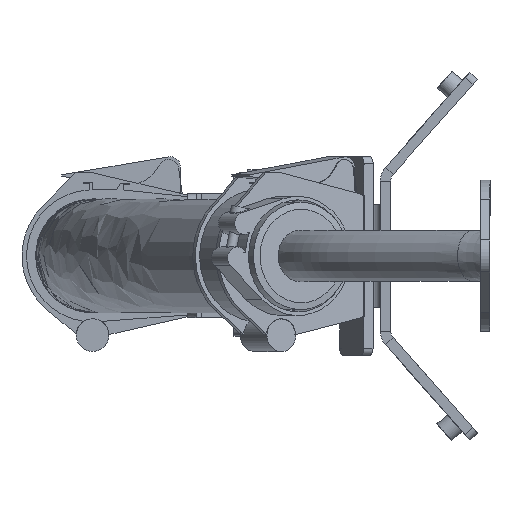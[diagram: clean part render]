
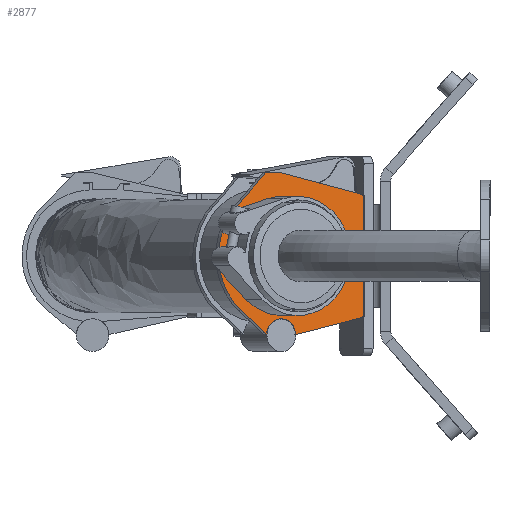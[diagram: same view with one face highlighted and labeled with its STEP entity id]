
A CAD part, left-side view. The second image highlights one B-rep face of the part: STEP entity #2877.
In plain terms, the highlighted planar face has unit normal (-0.883, -0.469, 0).
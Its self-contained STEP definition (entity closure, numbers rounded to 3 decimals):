
#442 = DIRECTION ( 'NONE',  ( 0.458, -0.861, 0.222 ) ) ;
#1196 = VERTEX_POINT ( 'NONE', #6393 ) ;
#1509 = VERTEX_POINT ( 'NONE', #17657 ) ;
#1556 = DIRECTION ( 'NONE',  ( -0.883, -0.469, 0. ) ) ;
#2292 = VECTOR ( 'NONE', #14519, 1000. ) ;
#2506 = ORIENTED_EDGE ( 'NONE', *, *, #20657, .T. ) ;
#2646 = VECTOR ( 'NONE', #13538, 1000. ) ;
#2826 = DIRECTION ( 'NONE',  ( -0.469, 0.883, 0.001 ) ) ;
#2877 = ADVANCED_FACE ( 'NONE', ( #13428, #15632 ), #17348, .F. ) ;
#3246 = DIRECTION ( 'NONE',  ( 0.883, 0.469, 0. ) ) ;
#4048 = DIRECTION ( 'NONE',  ( 0., -0.001, 1. ) ) ;
#5271 = VERTEX_POINT ( 'NONE', #6260 ) ;
#5572 = CARTESIAN_POINT ( 'NONE',  ( 825.533, 235.933, 2553.795 ) ) ;
#6013 = CARTESIAN_POINT ( 'NONE',  ( 834.772, 218.606, 2479.642 ) ) ;
#6043 = LINE ( 'NONE', #21782, #21424 ) ;
#6260 = CARTESIAN_POINT ( 'NONE',  ( 826.982, 233.247, 2493.32 ) ) ;
#6393 = CARTESIAN_POINT ( 'NONE',  ( 834.526, 219.007, 2573.156 ) ) ;
#6611 = LINE ( 'NONE', #22337, #18005 ) ;
#6805 = EDGE_LOOP ( 'NONE', ( #23836, #20362, #17187, #18125, #2506, #17217, #10063, #18551 ) ) ;
#7317 = DIRECTION ( 'NONE',  ( -0.883, -0.469, 0. ) ) ;
#7706 = CARTESIAN_POINT ( 'NONE',  ( 839.22, 210.21, 2524.951 ) ) ;
#8009 = EDGE_LOOP ( 'NONE', ( #17861 ) ) ;
#8096 = DIRECTION ( 'NONE',  ( -0.457, 0.859, 0.229 ) ) ;
#8281 = EDGE_CURVE ( 'NONE', #5271, #23368, #13861, .T. ) ;
#8826 = AXIS2_PLACEMENT_3D ( 'NONE', #23148, #1556, #23398 ) ;
#8900 = EDGE_CURVE ( 'NONE', #1509, #1509, #13803, .T. ) ;
#9886 = CARTESIAN_POINT ( 'NONE',  ( 839.22, 210.241, 2478.951 ) ) ;
#10063 = ORIENTED_EDGE ( 'NONE', *, *, #13396, .T. ) ;
#11470 = DIRECTION ( 'NONE',  ( 0., -0.001, 1. ) ) ;
#12397 = CARTESIAN_POINT ( 'NONE',  ( 865.041, 161.624, 2560.218 ) ) ;
#12841 = CARTESIAN_POINT ( 'NONE',  ( 836.873, 214.657, 2475.953 ) ) ;
#13396 = EDGE_CURVE ( 'NONE', #16245, #5271, #14190, .T. ) ;
#13428 = FACE_BOUND ( 'NONE', #8009, .T. ) ;
#13485 = VECTOR ( 'NONE', #4048, 1000. ) ;
#13538 = DIRECTION ( 'NONE',  ( -0.33, 0.621, -0.711 ) ) ;
#13684 = DIRECTION ( 'NONE',  ( 0., 0.001, -1. ) ) ;
#13803 = CIRCLE ( 'NONE', #17151, 33. ) ;
#13861 = LINE ( 'NONE', #12841, #2292 ) ;
#13867 = CARTESIAN_POINT ( 'NONE',  ( 843.678, 201.857, 2479.255 ) ) ;
#14190 = CIRCLE ( 'NONE', #8826, 41. ) ;
#14519 = DIRECTION ( 'NONE',  ( 0.362, -0.681, -0.636 ) ) ;
#15632 = FACE_OUTER_BOUND ( 'NONE', #6805, .T. ) ;
#15790 = CARTESIAN_POINT ( 'NONE',  ( 865.041, 161.624, 2560.218 ) ) ;
#16021 = LINE ( 'NONE', #24050, #23449 ) ;
#16245 = VERTEX_POINT ( 'NONE', #21014 ) ;
#16413 = EDGE_CURVE ( 'NONE', #20191, #17022, #17870, .T. ) ;
#17022 = VERTEX_POINT ( 'NONE', #12397 ) ;
#17151 = AXIS2_PLACEMENT_3D ( 'NONE', #25442, #7317, #11470 ) ;
#17187 = ORIENTED_EDGE ( 'NONE', *, *, #16413, .T. ) ;
#17217 = ORIENTED_EDGE ( 'NONE', *, *, #22544, .T. ) ;
#17329 = LINE ( 'NONE', #5572, #2646 ) ;
#17348 = PLANE ( 'NONE',  #25362 ) ;
#17657 = CARTESIAN_POINT ( 'NONE',  ( 839.22, 210.188, 2557.951 ) ) ;
#17660 = CIRCLE ( 'NONE', #22207, 9.5 ) ;
#17813 = DIRECTION ( 'NONE',  ( -0.883, -0.469, 0. ) ) ;
#17861 = ORIENTED_EDGE ( 'NONE', *, *, #8900, .F. ) ;
#17870 = LINE ( 'NONE', #15790, #13485 ) ;
#18005 = VECTOR ( 'NONE', #2826, 1000. ) ;
#18125 = ORIENTED_EDGE ( 'NONE', *, *, #23569, .T. ) ;
#18551 = ORIENTED_EDGE ( 'NONE', *, *, #8281, .T. ) ;
#18704 = VERTEX_POINT ( 'NONE', #13867 ) ;
#18996 = VERTEX_POINT ( 'NONE', #20674 ) ;
#20191 = VERTEX_POINT ( 'NONE', #24305 ) ;
#20362 = ORIENTED_EDGE ( 'NONE', *, *, #24368, .T. ) ;
#20657 = EDGE_CURVE ( 'NONE', #18996, #1196, #6611, .T. ) ;
#20674 = CARTESIAN_POINT ( 'NONE',  ( 839.22, 210.177, 2573.15 ) ) ;
#21014 = CARTESIAN_POINT ( 'NONE',  ( 825.533, 235.933, 2553.795 ) ) ;
#21424 = VECTOR ( 'NONE', #442, 1000. ) ;
#21649 = EDGE_CURVE ( 'NONE', #18704, #23368, #17660, .T. ) ;
#21782 = CARTESIAN_POINT ( 'NONE',  ( 865.041, 161.671, 2489.618 ) ) ;
#22207 = AXIS2_PLACEMENT_3D ( 'NONE', #9886, #17813, #25676 ) ;
#22337 = CARTESIAN_POINT ( 'NONE',  ( 834.526, 219.007, 2573.156 ) ) ;
#22544 = EDGE_CURVE ( 'NONE', #1196, #16245, #17329, .T. ) ;
#23148 = CARTESIAN_POINT ( 'NONE',  ( 839.22, 210.21, 2524.951 ) ) ;
#23368 = VERTEX_POINT ( 'NONE', #6013 ) ;
#23398 = DIRECTION ( 'NONE',  ( 0., 0.001, -1. ) ) ;
#23449 = VECTOR ( 'NONE', #8096, 1000. ) ;
#23569 = EDGE_CURVE ( 'NONE', #17022, #18996, #16021, .T. ) ;
#23836 = ORIENTED_EDGE ( 'NONE', *, *, #21649, .F. ) ;
#24050 = CARTESIAN_POINT ( 'NONE',  ( 839.22, 210.177, 2573.15 ) ) ;
#24305 = CARTESIAN_POINT ( 'NONE',  ( 865.041, 161.671, 2489.618 ) ) ;
#24368 = EDGE_CURVE ( 'NONE', #18704, #20191, #6043, .T. ) ;
#25362 = AXIS2_PLACEMENT_3D ( 'NONE', #7706, #3246, #13684 ) ;
#25442 = CARTESIAN_POINT ( 'NONE',  ( 839.22, 210.21, 2524.951 ) ) ;
#25676 = DIRECTION ( 'NONE',  ( 0., 0.001, -1. ) ) ;
